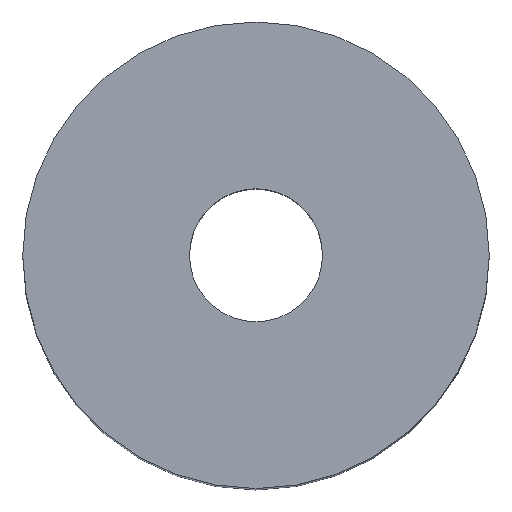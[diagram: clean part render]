
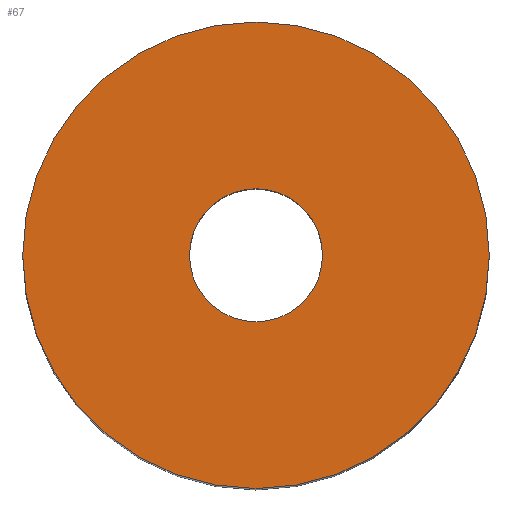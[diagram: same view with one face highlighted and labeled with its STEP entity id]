
A CAD part, top view. The second image highlights one B-rep face of the part: STEP entity #67.
In plain terms, the highlighted planar face has unit normal (0, 0, 1).
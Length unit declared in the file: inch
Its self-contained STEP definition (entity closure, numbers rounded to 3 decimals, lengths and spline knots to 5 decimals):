
#5 = VERTEX_POINT ( 'NONE', #9 ) ;
#9 = CARTESIAN_POINT ( 'NONE',  ( -0.3525, 0., 0. ) ) ;
#10 = CARTESIAN_POINT ( 'NONE',  ( 0., 0., 0. ) ) ;
#16 = DIRECTION ( 'NONE',  ( 0., 0., 1. ) ) ;
#19 = ORIENTED_EDGE ( 'NONE', *, *, #220, .F. ) ;
#21 = CARTESIAN_POINT ( 'NONE',  ( 0.1005, 0., 0. ) ) ;
#27 = ORIENTED_EDGE ( 'NONE', *, *, #166, .F. ) ;
#42 = PLANE ( 'NONE',  #236 ) ;
#52 = DIRECTION ( 'NONE',  ( 0., 0., 1. ) ) ;
#54 = AXIS2_PLACEMENT_3D ( 'NONE', #127, #314, #150 ) ;
#57 = CIRCLE ( 'NONE', #273, 0.3525 ) ;
#61 = ORIENTED_EDGE ( 'NONE', *, *, #297, .F. ) ;
#67 = ADVANCED_FACE ( 'NONE', ( #111, #197 ), #42, .F. ) ;
#70 = DIRECTION ( 'NONE',  ( 0., 0., -1. ) ) ;
#100 = CARTESIAN_POINT ( 'NONE',  ( 0., 0., 0. ) ) ;
#105 = CARTESIAN_POINT ( 'NONE',  ( -0.1005, 0., 0. ) ) ;
#111 = FACE_OUTER_BOUND ( 'NONE', #252, .T. ) ;
#124 = DIRECTION ( 'NONE',  ( 1., 0., 0. ) ) ;
#127 = CARTESIAN_POINT ( 'NONE',  ( 0., 0., 0. ) ) ;
#128 = CARTESIAN_POINT ( 'NONE',  ( 0.3525, 0., 0. ) ) ;
#139 = AXIS2_PLACEMENT_3D ( 'NONE', #206, #52, #237 ) ;
#149 = EDGE_CURVE ( 'NONE', #290, #5, #57, .T. ) ;
#150 = DIRECTION ( 'NONE',  ( 1., 0., 0. ) ) ;
#166 = EDGE_CURVE ( 'NONE', #304, #280, #191, .T. ) ;
#173 = CARTESIAN_POINT ( 'NONE',  ( 0., 0., 0. ) ) ;
#191 = CIRCLE ( 'NONE', #326, 0.1005 ) ;
#197 = FACE_BOUND ( 'NONE', #272, .T. ) ;
#198 = DIRECTION ( 'NONE',  ( 1., 0., 0. ) ) ;
#206 = CARTESIAN_POINT ( 'NONE',  ( 0., 0., 0. ) ) ;
#220 = EDGE_CURVE ( 'NONE', #5, #290, #242, .T. ) ;
#233 = CIRCLE ( 'NONE', #139, 0.1005 ) ;
#236 = AXIS2_PLACEMENT_3D ( 'NONE', #10, #70, #259 ) ;
#237 = DIRECTION ( 'NONE',  ( 1., 0., 0. ) ) ;
#242 = CIRCLE ( 'NONE', #54, 0.3525 ) ;
#252 = EDGE_LOOP ( 'NONE', ( #294, #19 ) ) ;
#259 = DIRECTION ( 'NONE',  ( -1., 0., 0. ) ) ;
#272 = EDGE_LOOP ( 'NONE', ( #61, #27 ) ) ;
#273 = AXIS2_PLACEMENT_3D ( 'NONE', #100, #287, #124 ) ;
#280 = VERTEX_POINT ( 'NONE', #21 ) ;
#287 = DIRECTION ( 'NONE',  ( 0., 0., -1. ) ) ;
#290 = VERTEX_POINT ( 'NONE', #128 ) ;
#294 = ORIENTED_EDGE ( 'NONE', *, *, #149, .F. ) ;
#297 = EDGE_CURVE ( 'NONE', #280, #304, #233, .T. ) ;
#304 = VERTEX_POINT ( 'NONE', #105 ) ;
#314 = DIRECTION ( 'NONE',  ( 0., 0., -1. ) ) ;
#326 = AXIS2_PLACEMENT_3D ( 'NONE', #173, #16, #198 ) ;
